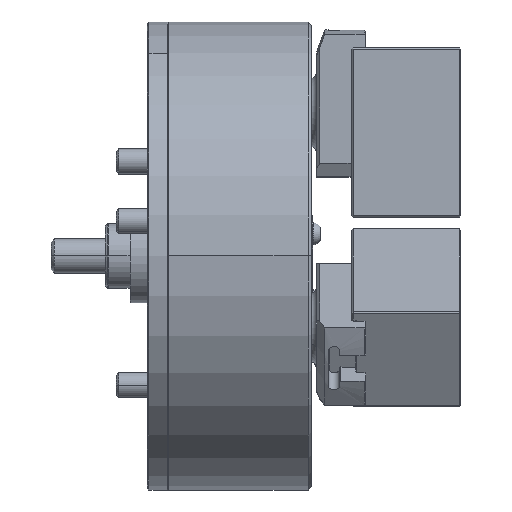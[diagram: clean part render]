
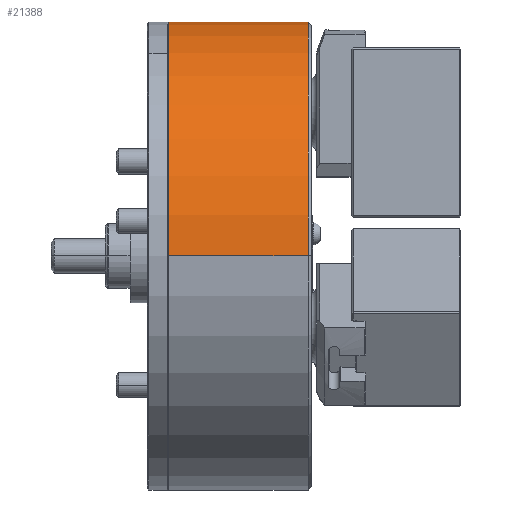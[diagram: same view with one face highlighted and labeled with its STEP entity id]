
A CAD part, top view. The second image highlights one B-rep face of the part: STEP entity #21388.
In plain terms, the highlighted cylindrical face has radius 150 mm (diameter 300 mm), a partial arc.
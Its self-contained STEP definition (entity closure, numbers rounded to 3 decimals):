
#212 = LINE ( 'NONE', #28149, #41207 ) ;
#4790 = CARTESIAN_POINT ( 'NONE',  ( -2., 0., 0. ) ) ;
#4836 = ORIENTED_EDGE ( 'NONE', *, *, #38032, .F. ) ;
#5691 = VERTEX_POINT ( 'NONE', #13607 ) ;
#6138 = VERTEX_POINT ( 'NONE', #41116 ) ;
#7442 = CYLINDRICAL_SURFACE ( 'NONE', #15426, 150. ) ;
#7710 = EDGE_CURVE ( 'NONE', #6138, #8546, #48746, .T. ) ;
#8546 = VERTEX_POINT ( 'NONE', #20458 ) ;
#8766 = DIRECTION ( 'NONE',  ( 0., 0., -1. ) ) ;
#13497 = DIRECTION ( 'NONE',  ( 1., 0., 0. ) ) ;
#13607 = CARTESIAN_POINT ( 'NONE',  ( -2., 0., -150. ) ) ;
#14567 = CARTESIAN_POINT ( 'NONE',  ( -2., 0., 150. ) ) ;
#15426 = AXIS2_PLACEMENT_3D ( 'NONE', #41696, #45716, #37475 ) ;
#15813 = LINE ( 'NONE', #29809, #35774 ) ;
#17225 = ORIENTED_EDGE ( 'NONE', *, *, #44154, .F. ) ;
#20458 = CARTESIAN_POINT ( 'NONE',  ( -91.2, 0., 150. ) ) ;
#21388 = ADVANCED_FACE ( 'NONE', ( #29800 ), #7442, .T. ) ;
#24568 = EDGE_CURVE ( 'NONE', #8546, #30199, #15813, .T. ) ;
#28149 = CARTESIAN_POINT ( 'NONE',  ( 63.843, 0., -150. ) ) ;
#29800 = FACE_OUTER_BOUND ( 'NONE', #34333, .T. ) ;
#29809 = CARTESIAN_POINT ( 'NONE',  ( 63.843, 0., 150. ) ) ;
#30199 = VERTEX_POINT ( 'NONE', #14567 ) ;
#32584 = DIRECTION ( 'NONE',  ( 1., 0., 0. ) ) ;
#34333 = EDGE_LOOP ( 'NONE', ( #41056, #48525, #17225, #4836 ) ) ;
#35774 = VECTOR ( 'NONE', #37873, 1000. ) ;
#37371 = CARTESIAN_POINT ( 'NONE',  ( -91.2, 0., 0. ) ) ;
#37475 = DIRECTION ( 'NONE',  ( 0., 0., -1. ) ) ;
#37873 = DIRECTION ( 'NONE',  ( 1., 0., 0. ) ) ;
#37959 = AXIS2_PLACEMENT_3D ( 'NONE', #37371, #13497, #41416 ) ;
#38032 = EDGE_CURVE ( 'NONE', #6138, #5691, #212, .T. ) ;
#40426 = DIRECTION ( 'NONE',  ( 1., 0., 0. ) ) ;
#41056 = ORIENTED_EDGE ( 'NONE', *, *, #7710, .T. ) ;
#41116 = CARTESIAN_POINT ( 'NONE',  ( -91.2, 0., -150. ) ) ;
#41207 = VECTOR ( 'NONE', #40426, 1000. ) ;
#41416 = DIRECTION ( 'NONE',  ( 0., 0., -1. ) ) ;
#41696 = CARTESIAN_POINT ( 'NONE',  ( 63.843, 0., 0. ) ) ;
#43292 = AXIS2_PLACEMENT_3D ( 'NONE', #4790, #32584, #8766 ) ;
#44154 = EDGE_CURVE ( 'NONE', #5691, #30199, #47454, .T. ) ;
#45716 = DIRECTION ( 'NONE',  ( 1., 0., 0. ) ) ;
#47454 = CIRCLE ( 'NONE', #43292, 150. ) ;
#48525 = ORIENTED_EDGE ( 'NONE', *, *, #24568, .T. ) ;
#48746 = CIRCLE ( 'NONE', #37959, 150. ) ;
